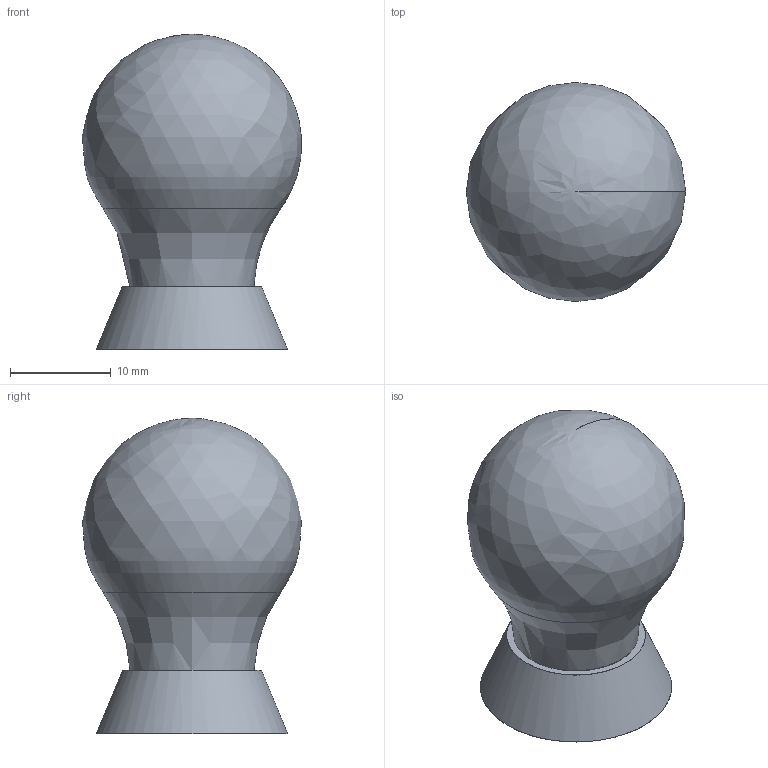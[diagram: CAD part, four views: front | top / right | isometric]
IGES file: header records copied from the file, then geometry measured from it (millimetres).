
Start section: C
Global section: file name: 076-32.igs; native system: By Siemens PLM Incorporated; preprocessor: XPlus GENERIC/IGES 16.0.42; author: Author; organization: Title; date: 20260104.155541; units: millimetre
Bounding box: 21.77 x 21.75 x 31.3 mm (x, y, z)
Surface area: 3103.5 mm2 (no closed solid volume)
Topology: 0 solids, 0 shells, 14 faces, 69 edges, 68 vertices
Faces by surface type: bspline 14
